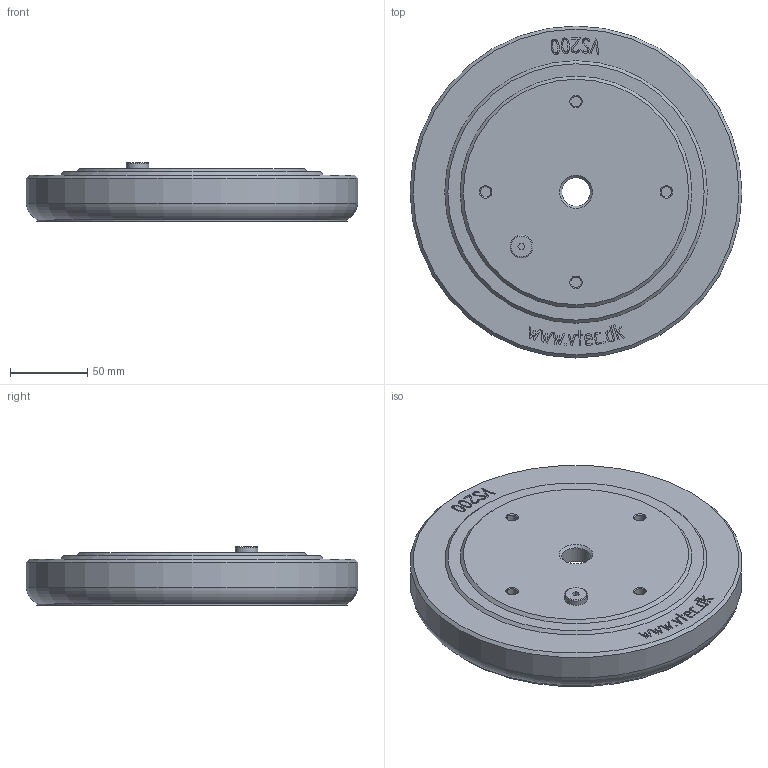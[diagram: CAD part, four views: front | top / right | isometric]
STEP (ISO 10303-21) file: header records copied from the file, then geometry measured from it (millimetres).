
FILE_DESCRIPTION( ( 'STEP AP203' ), '1' );
FILE_NAME( 'C:/撲啗紫賊-02/3D-蘋驍煎斜/Vacuum Pad/VS series/VS200-12F.stp', '2006-04-24T11:58:21', ( ' ' ), ( ' ' ), 'XStep 1.0', ' ', ' ' );
FILE_SCHEMA( ( 'CONFIG_CONTROL_DESIGN) ( )' ) );
Length unit declared in the file: metre
Products named in the file (1): 1
Bounding box: 215 x 215 x 38 mm (x, y, z)
Volume: 568832.1 mm3; surface area: 101449.9 mm2
Topology: 1 solids, 1 shells, 187 faces, 459 edges, 304 vertices
Faces by surface type: extrusion 125, plane 38, cylinder 11, cone 10, torus 3
Full cylindrical faces by diameter (mm): 6.8 x4, 13.5 x1, 14.7 x1, 18.5 x1, 185.4 x1, 199.2 x1, 201.2 x1, 215 x1
Entity records: 6487 total; most frequent: CARTESIAN_POINT 2211, ORIENTED_EDGE 848, DIRECTION 670, VECTOR 474, EDGE_CURVE 424, LINE 349, VERTEX_POINT 297, EDGE_LOOP 247
